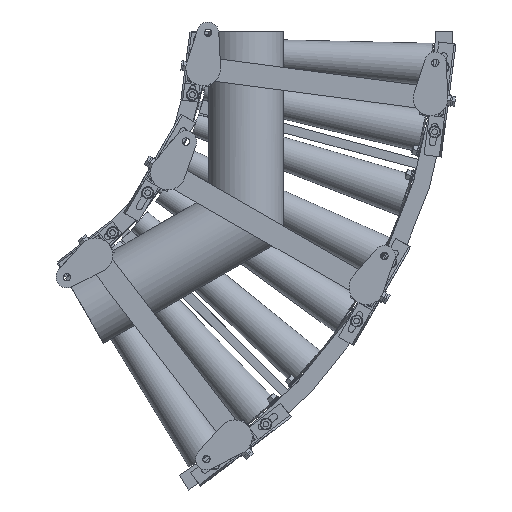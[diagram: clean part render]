
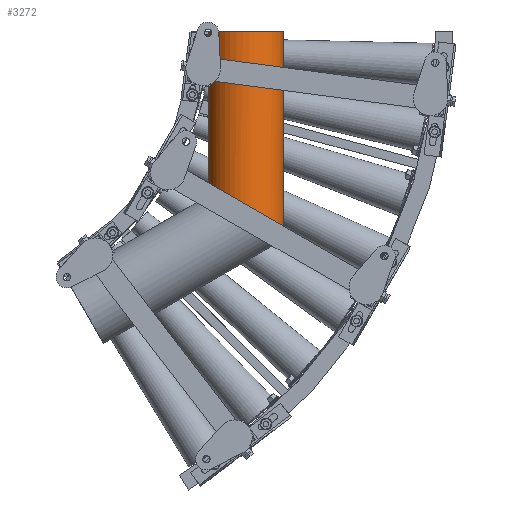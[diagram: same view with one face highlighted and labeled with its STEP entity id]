
A CAD part, front view. The second image highlights one B-rep face of the part: STEP entity #3272.
In plain terms, the highlighted cylindrical face has radius 67.024 mm (diameter 134.048 mm), a partial arc.
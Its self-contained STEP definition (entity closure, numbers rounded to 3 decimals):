
#3272=ADVANCED_FACE('',(#19745),#19744,.T.);
#19744=CYLINDRICAL_SURFACE('',#40602,67.024);
#19745=FACE_OUTER_BOUND('',#40603,.T.);
#40599=CARTESIAN_POINT('',(566.3,-156.676,0.));
#40600=DIRECTION('',(0.,0.,1.));
#40601=DIRECTION('',(1.,0.,0.));
#40602=AXIS2_PLACEMENT_3D('',#40599,#40600,#40601);
#40603=EDGE_LOOP('',(#54528,#54529,#54530,#54531));
#54528=ORIENTED_EDGE('',*,*,#64481,.F.);
#54529=ORIENTED_EDGE('',*,*,#64390,.F.);
#54530=ORIENTED_EDGE('',*,*,#64482,.T.);
#54531=ORIENTED_EDGE('',*,*,#64478,.F.);
#64390=EDGE_CURVE('',#91552,#91559,#91560,.T.);
#64478=EDGE_CURVE('',#92113,#92126,#92127,.T.);
#64481=EDGE_CURVE('',#91559,#92113,#92145,.T.);
#64482=EDGE_CURVE('',#91552,#92126,#92151,.T.);
#91552=VERTEX_POINT('',#128360);
#91559=VERTEX_POINT('',#128364);
#91560=CIRCLE('',#128368,67.024);
#92113=VERTEX_POINT('',#128655);
#92126=VERTEX_POINT('',#128662);
#92127=(BOUNDED_CURVE() B_SPLINE_CURVE(2,(#128663,#128664,#128665,#128666,#128667),.UNSPECIFIED.,.F.,.F.) B_SPLINE_CURVE_WITH_KNOTS((3,2,3),(0.147,1.571,2.994),.UNSPECIFIED.) CURVE() GEOMETRIC_REPRESENTATION_ITEM() RATIONAL_B_SPLINE_CURVE((1.,0.757,1.,0.757,1.)) REPRESENTATION_ITEM('') );
#92145=LINE('',#128674,#128675);
#92151=LINE('',#128677,#128678);
#128360=CARTESIAN_POINT('',(500.,-166.5,0.));
#128364=CARTESIAN_POINT('',(632.6,-166.5,0.));
#128365=CARTESIAN_POINT('',(566.3,-156.676,0.));
#128366=DIRECTION('',(0.,0.,1.));
#128367=DIRECTION('',(1.,0.,0.));
#128368=AXIS2_PLACEMENT_3D('',#128365,#128366,#128367);
#128655=CARTESIAN_POINT('',(632.6,-166.5,-365.232));
#128662=CARTESIAN_POINT('',(500.,-166.5,-288.675));
#128663=CARTESIAN_POINT('',(632.6,-166.5,-365.232));
#128664=CARTESIAN_POINT('',(624.125,-223.7,-360.338));
#128665=CARTESIAN_POINT('',(566.3,-223.7,-326.953));
#128666=CARTESIAN_POINT('',(508.475,-223.7,-293.568));
#128667=CARTESIAN_POINT('',(500.,-166.5,-288.675));
#128674=CARTESIAN_POINT('',(632.6,-166.5,0.));
#128675=VECTOR('',#128676,365.232);
#128676=DIRECTION('',(0.,0.,-1.));
#128677=CARTESIAN_POINT('',(500.,-166.5,0.));
#128678=VECTOR('',#128679,288.675);
#128679=DIRECTION('',(0.,0.,-1.));
